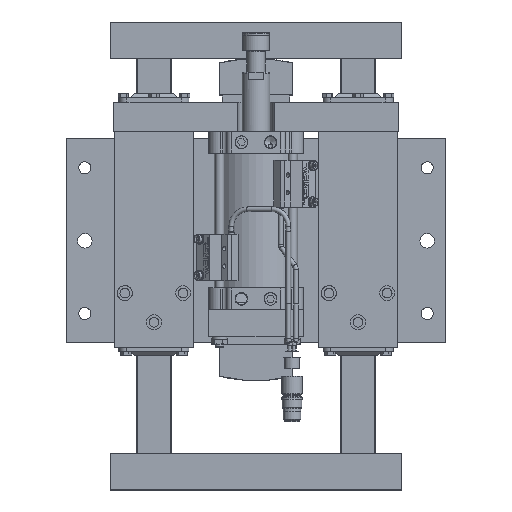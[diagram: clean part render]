
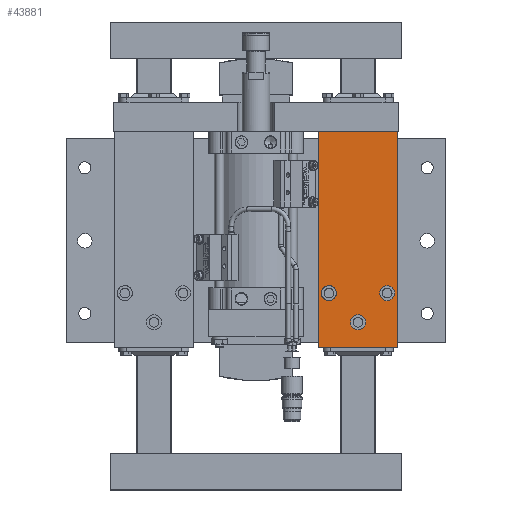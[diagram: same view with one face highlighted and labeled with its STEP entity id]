
A CAD part, top view. The second image highlights one B-rep face of the part: STEP entity #43881.
In plain terms, the highlighted planar face has unit normal (0, 0, 1).
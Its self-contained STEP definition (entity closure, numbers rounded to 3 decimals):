
#1459=FACE_BOUND('',#6579,.T.);
#1460=FACE_BOUND('',#6580,.T.);
#1461=FACE_BOUND('',#6581,.T.);
#2130=PLANE('',#47194);
#3823=FACE_OUTER_BOUND('',#6578,.T.);
#6578=EDGE_LOOP('',(#30535,#30536,#30537,#30538));
#6579=EDGE_LOOP('',(#30539,#30540));
#6580=EDGE_LOOP('',(#30541,#30542));
#6581=EDGE_LOOP('',(#30543,#30544));
#9550=LINE('',#66787,#12779);
#9555=LINE('',#66798,#12784);
#9557=LINE('',#66801,#12786);
#9558=LINE('',#66802,#12787);
#12779=VECTOR('',#53645,10.);
#12784=VECTOR('',#53654,10.);
#12786=VECTOR('',#53658,10.);
#12787=VECTOR('',#53659,10.);
#16002=CIRCLE('',#47044,5.175);
#16003=CIRCLE('',#47045,5.175);
#16006=CIRCLE('',#47050,5.175);
#16007=CIRCLE('',#47051,5.175);
#16010=CIRCLE('',#47056,5.175);
#16011=CIRCLE('',#47057,5.175);
#18532=VERTEX_POINT('',#66473);
#18533=VERTEX_POINT('',#66474);
#18536=VERTEX_POINT('',#66484);
#18537=VERTEX_POINT('',#66485);
#18540=VERTEX_POINT('',#66495);
#18541=VERTEX_POINT('',#66496);
#18644=VERTEX_POINT('',#66780);
#18647=VERTEX_POINT('',#66785);
#18650=VERTEX_POINT('',#66795);
#18651=VERTEX_POINT('',#66797);
#22980=EDGE_CURVE('',#18532,#18533,#16002,.T.);
#22981=EDGE_CURVE('',#18533,#18532,#16003,.T.);
#22985=EDGE_CURVE('',#18536,#18537,#16006,.T.);
#22986=EDGE_CURVE('',#18537,#18536,#16007,.T.);
#22990=EDGE_CURVE('',#18540,#18541,#16010,.T.);
#22991=EDGE_CURVE('',#18541,#18540,#16011,.T.);
#23124=EDGE_CURVE('',#18647,#18644,#9550,.T.);
#23129=EDGE_CURVE('',#18651,#18650,#9555,.T.);
#23131=EDGE_CURVE('',#18650,#18644,#9557,.T.);
#23132=EDGE_CURVE('',#18647,#18651,#9558,.T.);
#30535=ORIENTED_EDGE('',*,*,#23131,.T.);
#30536=ORIENTED_EDGE('',*,*,#23124,.F.);
#30537=ORIENTED_EDGE('',*,*,#23132,.T.);
#30538=ORIENTED_EDGE('',*,*,#23129,.T.);
#30539=ORIENTED_EDGE('',*,*,#22980,.T.);
#30540=ORIENTED_EDGE('',*,*,#22981,.T.);
#30541=ORIENTED_EDGE('',*,*,#22985,.T.);
#30542=ORIENTED_EDGE('',*,*,#22986,.T.);
#30543=ORIENTED_EDGE('',*,*,#22990,.T.);
#30544=ORIENTED_EDGE('',*,*,#22991,.T.);
#43881=ADVANCED_FACE('',(#3823,#1459,#1460,#1461),#2130,.T.);
#47044=AXIS2_PLACEMENT_3D('',#66475,#53299,#53300);
#47045=AXIS2_PLACEMENT_3D('',#66476,#53301,#53302);
#47050=AXIS2_PLACEMENT_3D('',#66486,#53312,#53313);
#47051=AXIS2_PLACEMENT_3D('',#66487,#53314,#53315);
#47056=AXIS2_PLACEMENT_3D('',#66497,#53325,#53326);
#47057=AXIS2_PLACEMENT_3D('',#66498,#53327,#53328);
#47194=AXIS2_PLACEMENT_3D('',#66800,#53656,#53657);
#53299=DIRECTION('center_axis',(0.,0.,
-1.));
#53300=DIRECTION('ref_axis',(-1.,0.,0.));
#53301=DIRECTION('center_axis',(0.,0.,
-1.));
#53302=DIRECTION('ref_axis',(-1.,0.,0.));
#53312=DIRECTION('center_axis',(0.,0.,
-1.));
#53313=DIRECTION('ref_axis',(-1.,0.,0.));
#53314=DIRECTION('center_axis',(0.,0.,
-1.));
#53315=DIRECTION('ref_axis',(-1.,0.,0.));
#53325=DIRECTION('center_axis',(0.,0.,
-1.));
#53326=DIRECTION('ref_axis',(-1.,0.,0.));
#53327=DIRECTION('center_axis',(0.,0.,
-1.));
#53328=DIRECTION('ref_axis',(-1.,0.,0.));
#53645=DIRECTION('',(0.,-1.,0.));
#53654=DIRECTION('',(0.,-1.,0.));
#53656=DIRECTION('center_axis',(0.,0.,
1.));
#53657=DIRECTION('ref_axis',(-1.,0.,0.));
#53658=DIRECTION('',(1.,0.,0.));
#53659=DIRECTION('',(-1.,0.,0.));
#66473=CARTESIAN_POINT('',(84.825,-36.,61.));
#66474=CARTESIAN_POINT('',(95.175,-36.,61.));
#66475=CARTESIAN_POINT('Origin',(90.,-36.,61.));
#66476=CARTESIAN_POINT('Origin',(90.,-36.,61.));
#66484=CARTESIAN_POINT('',(64.825,-56.,61.));
#66485=CARTESIAN_POINT('',(75.175,-56.,61.));
#66486=CARTESIAN_POINT('Origin',(70.,-56.,61.));
#66487=CARTESIAN_POINT('Origin',(70.,-56.,61.));
#66495=CARTESIAN_POINT('',(44.825,-36.,61.));
#66496=CARTESIAN_POINT('',(55.175,-36.,61.));
#66497=CARTESIAN_POINT('Origin',(50.,-36.,61.));
#66498=CARTESIAN_POINT('Origin',(50.,-36.,61.));
#66780=CARTESIAN_POINT('',(97.,-73.,61.));
#66785=CARTESIAN_POINT('',(97.,75.,61.));
#66787=CARTESIAN_POINT('',(97.,75.,61.));
#66795=CARTESIAN_POINT('',(43.,-73.,61.));
#66797=CARTESIAN_POINT('',(43.,75.,61.));
#66798=CARTESIAN_POINT('',(43.,75.,61.));
#66800=CARTESIAN_POINT('Origin',(43.,75.,61.));
#66801=CARTESIAN_POINT('',(97.,-73.,61.));
#66802=CARTESIAN_POINT('',(97.,75.,61.));
